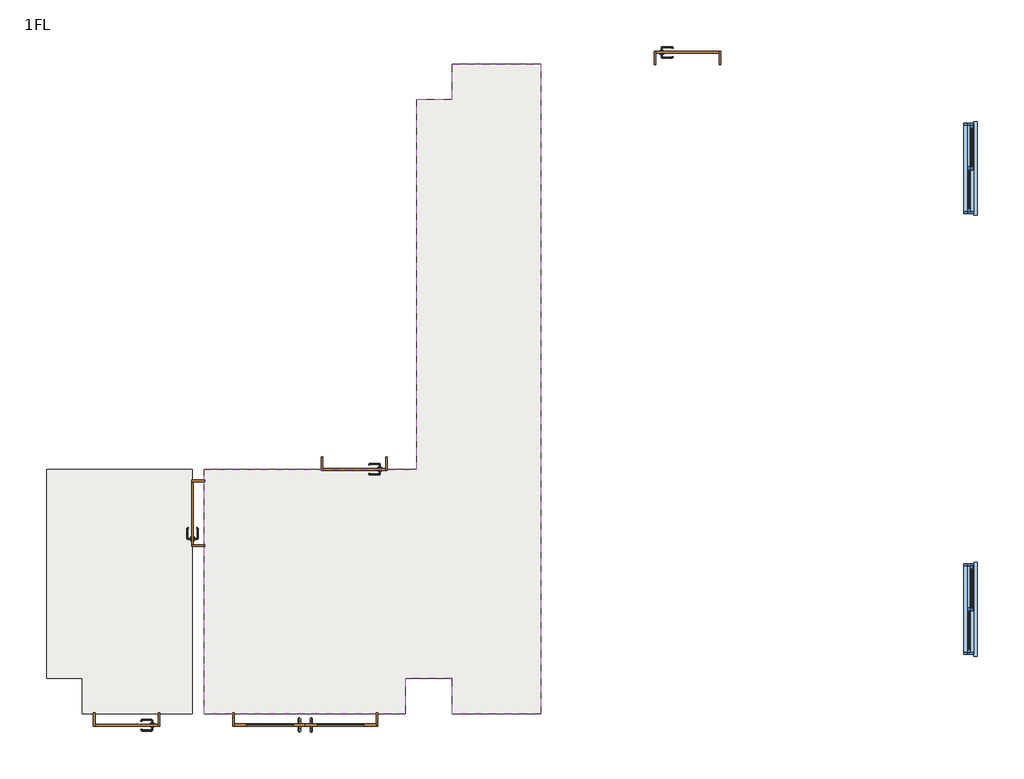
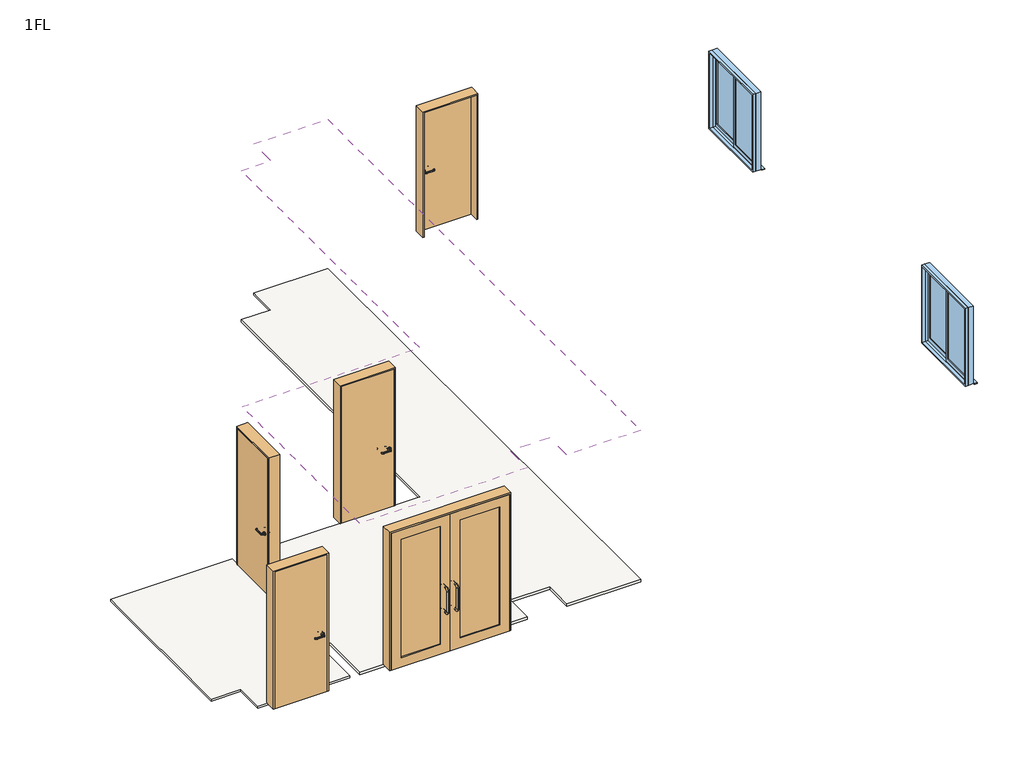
# One storey: 5 doors, 2 slabs, 2 windows, 1 covering.
"""IFC4 building model written with IfcOpenShell, lengths in millimetres."""

from ifc_helpers import new_model, si_unit, frame, origin, origin_with_axes, place, context, project, spatial, polyline, outline, extrude, transform, mapped, element, save
from components import w1800h2200_5ceaf187, w800h2000_b5c5a0a2, w800h2200_05deb988, w1100h1200_97370016

model = new_model("IFC4")

# Units and contexts
model_context = context("Model", 3, world=origin())
ifc_project = project(units=[si_unit("LENGTHUNIT", "METRE", prefix="MILLI")], contexts=[model_context])

# Site, building, storey
site = spatial("IfcSite", under=ifc_project)
building = spatial("IfcBuilding", under=site)
storey = spatial("IfcBuildingStorey", under=building, Name="1FL", Elevation=35.0)

# Covering
placement = place(None, origin())
element("IfcCovering", 1, ObjectType="化粧石膏ボード", at=placement, inside=storey, context=model_context, shape_type="SweptSolid", body=[
    extrude(outline(polyline([(5225.0, 8325.0), (6350.0, 8325.0), (6350.0, 75.0), (5225.0, 75.0), (5225.0, 525.0), (4625.0, 525.0), (4625.0, 75.0), (2075.0, 75.0), (2075.0, 3175.0), (4775.0, 3175.0), (4775.0, 7875.0), (5225.0, 7875.0), (5225.0, 8325.0)])), frame((0.0, 0.0, 2435.0), z_axis=(0.0, 0.0, 1.0), x_axis=(1.0, 0.0, 0.0)), (0.0, 0.0, 1.0), 9.5),
])

# Doors
w1800h2200_shape = w1800h2200_5ceaf187(model_context)
element("IfcDoor", 2, ObjectType="両開き_ガラス四方框 : w1800h2200", at=placement, inside=storey, context=model_context, shape_type="MappedRepresentation", body=[
    mapped(w1800h2200_shape, transform((3360.0, 0.0, 35.0), x_axis=(-1.0, 0.0, 0.0), y_axis=(0.0, -1.0, 0.0), z_axis=(0.0, 0.0, 1.0))),
])
w800h2000_shape = w800h2000_b5c5a0a2(model_context)
element("IfcDoor", 3, ObjectType="片開き : w800h2000", at=placement, inside=storey, context=model_context, shape_type="MappedRepresentation", body=[
    mapped(w800h2000_shape, transform((8210.0, 8400.0, 35.0), x_axis=(1.0, 0.0, 0.0), y_axis=(0.0, 1.0, 0.0), z_axis=(0.0, 0.0, 1.0))),
])
w800h2200_shape = w800h2200_05deb988(model_context)
element("IfcDoor", 4, ObjectType="片開き : w800h2200", at=placement, inside=storey, context=model_context, shape_type="MappedRepresentation", body=[
    mapped(w800h2200_shape, transform((1090.0, 0.0, 35.0), x_axis=(-1.0, 0.0, 0.0), y_axis=(0.0, -1.0, 0.0), z_axis=(0.0, 0.0, 1.0))),
])
element("IfcDoor", 5, ObjectType="片開き : w800h2200", at=placement, inside=storey, context=model_context, shape_type="MappedRepresentation", body=[
    mapped(w800h2200_shape, transform((2000.0, 2620.0, 35.0), x_axis=(0.0, 1.0, 0.0), y_axis=(-1.0, 0.0, 0.0), z_axis=(0.0, 0.0, 1.0))),
])
element("IfcDoor", 6, ObjectType="片開き : w800h2200", at=placement, inside=storey, context=model_context, shape_type="MappedRepresentation", body=[
    mapped(w800h2200_shape, transform((3980.0, 3250.0, 35.0), x_axis=(-1.0, 0.0, 0.0), y_axis=(0.0, -1.0, 0.0), z_axis=(0.0, 0.0, 1.0))),
])

# Slabs
element("IfcSlab", 7, ObjectType="磁器タイル", at=placement, inside=storey, context=model_context, shape_type="SweptSolid", body=[
    extrude(outline(polyline([(5225.0, 7875.0), (5225.0, 8325.0), (6350.0, 8325.0), (6350.0, 75.0), (5225.0, 75.0), (5225.0, 525.0), (4625.0, 525.0), (4625.0, 75.0), (2075.0, 75.0), (2075.0, 3175.0), (4775.0, 3175.0), (4775.0, 7875.0), (5225.0, 7875.0)])), origin_with_axes(), (0.0, 0.0, 1.0), 35.0),
])
element("IfcSlab", 8, ObjectType="防水モルタル", at=placement, inside=storey, context=model_context, shape_type="SweptSolid", body=[
    extrude(outline(polyline([(75.0, 525.0), (75.0, 3175.0), (1925.0, 3175.0), (1925.0, 75.0), (525.0, 75.0), (525.0, 525.0), (75.0, 525.0)])), origin_with_axes(), (0.0, 0.0, 1.0), 35.0),
])

# Windows
w1100h1200_shape = w1100h1200_97370016(model_context)
element("IfcWindow", 9, ObjectType="引違い腰窓_2枚 : W1100H1200", at=placement, inside=storey, context=model_context, shape_type="MappedRepresentation", body=[
    mapped(w1100h1200_shape, transform((11800.0, 7000.0, 85.0), x_axis=(0.0, -1.0, 0.0), y_axis=(1.0, 0.0, 0.0), z_axis=(0.0, 0.0, 1.0))),
])
element("IfcWindow", 10, ObjectType="引違い腰窓_2枚 : W1100H1200", at=placement, inside=storey, context=model_context, shape_type="MappedRepresentation", body=[
    mapped(w1100h1200_shape, transform((11800.0, 1400.0, 35.0), x_axis=(0.0, -1.0, 0.0), y_axis=(1.0, 0.0, 0.0), z_axis=(0.0, 0.0, 1.0))),
])

save(model, "model.ifc")
